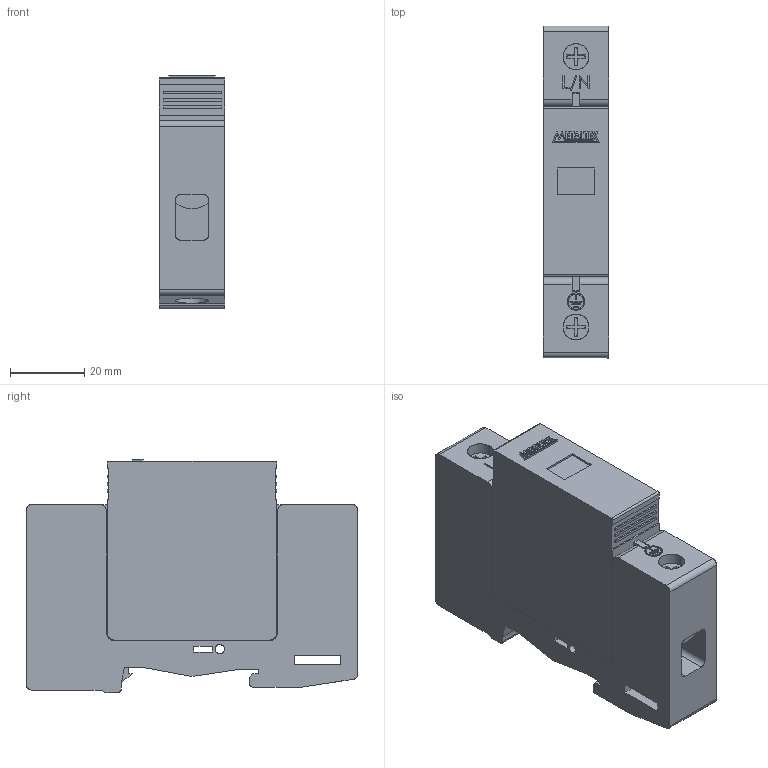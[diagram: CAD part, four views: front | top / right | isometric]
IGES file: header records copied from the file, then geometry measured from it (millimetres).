
Start section: SolidWorks IGES file using analytic representation for surfaces
Global section: file name: D:\X - Arquivos\PROEX\Empresas\P11 - METALTEX\01 - Produtos\IGES\4ª remessa\6ª etapa\DPS2-20.IGS; native system: SolidWorks 2012; preprocessor: SolidWorks 2012; author: Usuario; date: 180620.132802; units: millimetre
Bounding box: 17.8 x 89.6 x 63.1 mm (x, y, z)
Surface area: 22793.3 mm2 (no closed solid volume)
Topology: 0 solids, 0 shells, 352 faces, 2833 edges, 2833 vertices
Faces by surface type: bspline 297, revolution 55
